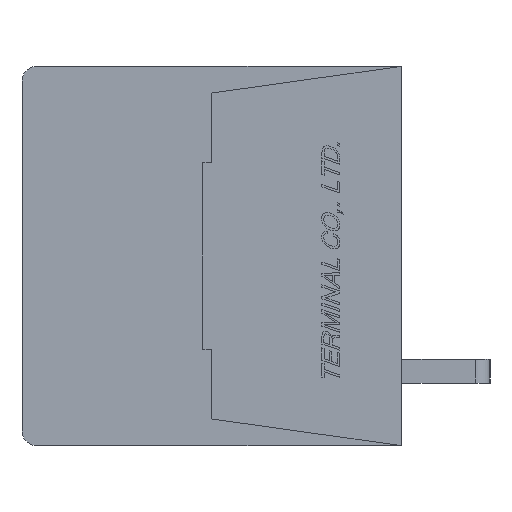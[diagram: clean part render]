
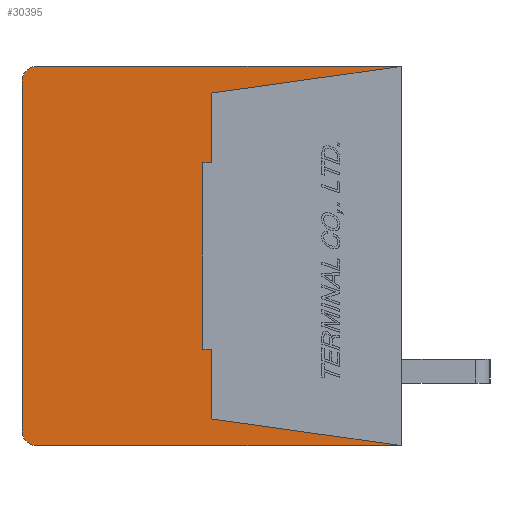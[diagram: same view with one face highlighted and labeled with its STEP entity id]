
A CAD part, left-side view. The second image highlights one B-rep face of the part: STEP entity #30395.
In plain terms, the highlighted planar face has unit normal (-1, 0, 0).
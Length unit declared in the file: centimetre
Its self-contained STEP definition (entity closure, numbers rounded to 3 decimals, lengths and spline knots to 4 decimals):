
#1567=CIRCLE('',#52014,0.05);
#1568=CIRCLE('',#52017,0.05);
#2715=VERTEX_POINT('',#42305);
#2716=VERTEX_POINT('',#42307);
#2717=VERTEX_POINT('',#42311);
#2718=VERTEX_POINT('',#42315);
#2719=VERTEX_POINT('',#42319);
#2720=VERTEX_POINT('',#42323);
#2721=VERTEX_POINT('',#42327);
#2722=VERTEX_POINT('',#42329);
#2723=VERTEX_POINT('',#42331);
#2724=VERTEX_POINT('',#42333);
#2725=VERTEX_POINT('',#42335);
#2726=VERTEX_POINT('',#42337);
#5940=VECTOR('',#35213,1.);
#5944=VECTOR('',#35222,1.);
#5947=VECTOR('',#35230,1.);
#5948=VECTOR('',#35232,1.);
#5949=VECTOR('',#35233,1.);
#5950=VECTOR('',#35234,1.);
#5951=VECTOR('',#35235,1.);
#5952=VECTOR('',#35236,1.);
#5953=VECTOR('',#35237,1.);
#5954=VECTOR('',#35238,1.);
#9519=LINE('',#42306,#5940);
#9523=LINE('',#42316,#5944);
#9526=LINE('',#42324,#5947);
#9527=LINE('',#42326,#5948);
#9528=LINE('',#42328,#5949);
#9529=LINE('',#42330,#5950);
#9530=LINE('',#42332,#5951);
#9531=LINE('',#42334,#5952);
#9532=LINE('',#42336,#5953);
#9533=LINE('',#42338,#5954);
#13500=EDGE_CURVE('',#2716,#2715,#9519,.T.);
#13503=EDGE_CURVE('',#2717,#2715,#1567,.T.);
#13505=EDGE_CURVE('',#2717,#2718,#9523,.T.);
#13507=EDGE_CURVE('',#2719,#2718,#1568,.T.);
#13509=EDGE_CURVE('',#2719,#2720,#9526,.T.);
#13510=EDGE_CURVE('',#2721,#2716,#9527,.T.);
#13511=EDGE_CURVE('',#2720,#2722,#9528,.T.);
#13512=EDGE_CURVE('',#2722,#2723,#9529,.T.);
#13513=EDGE_CURVE('',#2723,#2724,#9530,.T.);
#13514=EDGE_CURVE('',#2724,#2725,#9531,.T.);
#13515=EDGE_CURVE('',#2725,#2726,#9532,.T.);
#13516=EDGE_CURVE('',#2726,#2721,#9533,.T.);
#19678=ORIENTED_EDGE('',*,*,#13510,.T.);
#19679=ORIENTED_EDGE('',*,*,#13500,.T.);
#19680=ORIENTED_EDGE('',*,*,#13503,.F.);
#19681=ORIENTED_EDGE('',*,*,#13505,.T.);
#19682=ORIENTED_EDGE('',*,*,#13507,.F.);
#19683=ORIENTED_EDGE('',*,*,#13509,.T.);
#19684=ORIENTED_EDGE('',*,*,#13511,.T.);
#19685=ORIENTED_EDGE('',*,*,#13512,.T.);
#19686=ORIENTED_EDGE('',*,*,#13513,.T.);
#19687=ORIENTED_EDGE('',*,*,#13514,.T.);
#19688=ORIENTED_EDGE('',*,*,#13515,.T.);
#19689=ORIENTED_EDGE('',*,*,#13516,.T.);
#26471=EDGE_LOOP('',(#19678,#19679,#19680,#19681,#19682,#19683,#19684,#19685,
#19686,#19687,#19688,#19689));
#28476=FACE_BOUND('',#26471,.T.);
#30395=ADVANCED_FACE('',(#28476),#32052,.F.);
#32052=PLANE('',#52019);
#35213=DIRECTION('',(0.,1.,0.));
#35218=DIRECTION('',(1.,0.,0.));
#35219=DIRECTION('',(0.,0.,-0.05));
#35222=DIRECTION('',(0.,0.,-1.));
#35226=DIRECTION('',(1.,0.,0.));
#35227=DIRECTION('',(0.,0.,-0.05));
#35230=DIRECTION('',(0.,-1.,0.));
#35231=DIRECTION('',(1.,0.,0.));
#35232=DIRECTION('',(0.,-0.99,0.139));
#35233=DIRECTION('',(0.,0.99,0.139));
#35234=DIRECTION('',(0.,0.,1.));
#35235=DIRECTION('',(0.,1.,0.));
#35236=DIRECTION('',(0.,0.,1.));
#35237=DIRECTION('',(0.,-1.,0.));
#35238=DIRECTION('',(0.,0.,1.));
#42305=CARTESIAN_POINT('',(-1.,1.23,0.64));
#42306=CARTESIAN_POINT('',(-1.,0.,0.64));
#42307=CARTESIAN_POINT('',(-1.,0.,0.64));
#42311=CARTESIAN_POINT('',(-1.,1.28,0.59));
#42312=CARTESIAN_POINT('',(-1.,1.23,0.59));
#42315=CARTESIAN_POINT('',(-1.,1.28,-0.59));
#42316=CARTESIAN_POINT('',(-1.,1.28,0.59));
#42319=CARTESIAN_POINT('',(-1.,1.23,-0.64));
#42320=CARTESIAN_POINT('',(-1.,1.23,-0.59));
#42323=CARTESIAN_POINT('',(-1.,0.,-0.64));
#42324=CARTESIAN_POINT('',(-1.,1.23,-0.64));
#42325=CARTESIAN_POINT('',(-1.,0.6345,0.));
#42326=CARTESIAN_POINT('',(-1.,0.64,0.55));
#42327=CARTESIAN_POINT('',(-1.,0.64,0.55));
#42328=CARTESIAN_POINT('',(-1.,0.,-0.64));
#42329=CARTESIAN_POINT('',(-1.,0.64,-0.55));
#42330=CARTESIAN_POINT('',(-1.,0.64,-0.55));
#42331=CARTESIAN_POINT('',(-1.,0.64,-0.315));
#42332=CARTESIAN_POINT('',(-1.,0.64,-0.315));
#42333=CARTESIAN_POINT('',(-1.,0.67,-0.315));
#42334=CARTESIAN_POINT('',(-1.,0.67,-0.315));
#42335=CARTESIAN_POINT('',(-1.,0.67,0.315));
#42336=CARTESIAN_POINT('',(-1.,0.67,0.315));
#42337=CARTESIAN_POINT('',(-1.,0.64,0.315));
#42338=CARTESIAN_POINT('',(-1.,0.64,0.315));
#52014=AXIS2_PLACEMENT_3D('',#42312,#35218,#35219);
#52017=AXIS2_PLACEMENT_3D('',#42320,#35226,#35227);
#52019=AXIS2_PLACEMENT_3D('',#42325,#35231,$);
